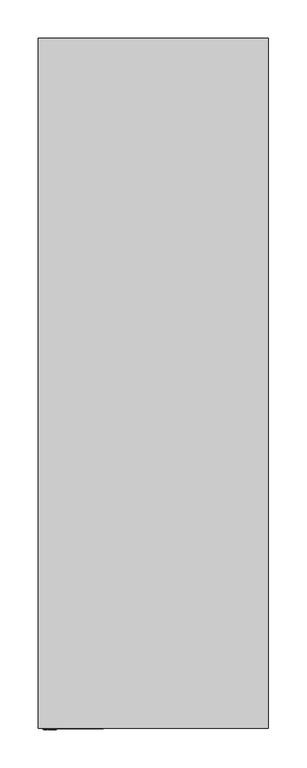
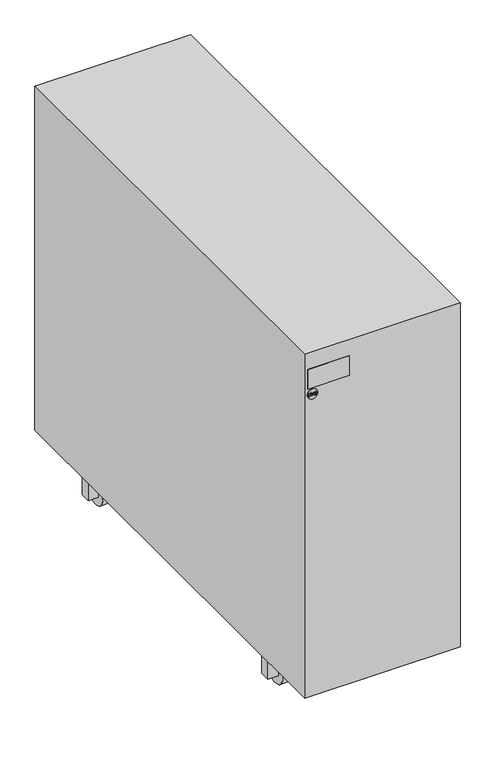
"""IFC4 building model written with IfcOpenShell, lengths in millimetres: proxy geometry, НВО_КНС_ИБПTrioTM_DKC : TRIOTM15A10."""

from ifc_helpers import new_model, si_unit, point, frame, frame_2d, origin, place, context, project, spatial, polyline, circle_curve, trimmed, segment, composite_curve, outline, extrude, source, transform, mapped, element, save


def electrical_equipment_c397dae7(model_context):
    return source(origin(), model_context, "Body", "SweptSolid", [
        extrude(outline(polyline([(50.3347717, -84.6652283), (35.0, -100.0), (20.0, -100.0), (20.0, -80.0), (70.0, -80.0), (70.0, -84.6652283), (50.3347717, -84.6652283)])), frame((0.0, 740.0, 0.0), z_axis=(0.0, 1.0, 0.0), x_axis=(0.0, 0.0, 1.0)), (0.0, 0.0, 1.0), 20.0),
        extrude(outline(polyline([(50.3347717, -135.3347717), (70.0, -135.3347717), (70.0, -140.0), (20.0, -140.0), (20.0, -120.0), (35.0, -120.0), (50.3347717, -135.3347717)])), frame((0.0, 740.0, 0.0), z_axis=(0.0, 1.0, 0.0), x_axis=(0.0, 0.0, 1.0)), (0.0, 0.0, 1.0), 20.0),
        extrude(outline(composite_curve([segment(trimmed(circle_curve(frame_2d((750.0, 25.0)), 25.0), [point((775.0, 25.0))], [point((725.0, 25.0))], False, "CARTESIAN"), True, "CONTINUOUS"), segment(trimmed(circle_curve(frame_2d((750.0, 25.0)), 25.0), [point((725.0, 25.0))], [point((775.0, 25.0))], False, "CARTESIAN"), True, "CONTINUOUS")], self_intersect=False)), frame((-120.0, 0.0, 0.0), z_axis=(1.0, 0.0, 0.0), x_axis=(0.0, 1.0, 0.0)), (0.0, 0.0, 1.0), 20.0),
        extrude(outline(polyline([(50.3347717, -84.6652283), (35.0, -100.0), (20.0, -100.0), (20.0, -80.0), (70.0, -80.0), (70.0, -84.6652283), (50.3347717, -84.6652283)])), frame((0.0, 140.0, 0.0), z_axis=(0.0, 1.0, 0.0), x_axis=(0.0, 0.0, 1.0)), (0.0, 0.0, 1.0), 20.0),
        extrude(outline(polyline([(50.3347717, -135.3347717), (70.0, -135.3347717), (70.0, -140.0), (20.0, -140.0), (20.0, -120.0), (35.0, -120.0), (50.3347717, -135.3347717)])), frame((0.0, 140.0, 0.0), z_axis=(0.0, 1.0, 0.0), x_axis=(0.0, 0.0, 1.0)), (0.0, 0.0, 1.0), 20.0),
        extrude(outline(composite_curve([segment(trimmed(circle_curve(frame_2d((150.0, 25.0)), 25.0), [point((175.0, 25.0))], [point((125.0, 25.0))], False, "CARTESIAN"), True, "CONTINUOUS"), segment(trimmed(circle_curve(frame_2d((150.0, 25.0)), 25.0), [point((125.0, 25.0))], [point((175.0, 25.0))], False, "CARTESIAN"), True, "CONTINUOUS")], self_intersect=False)), frame((-120.0, 0.0, 0.0), z_axis=(1.0, 0.0, 0.0), x_axis=(0.0, 1.0, 0.0)), (0.0, 0.0, 1.0), 20.0),
        extrude(outline(polyline([(50.3347717, 135.3347717), (35.0, 120.0), (20.0, 120.0), (20.0, 140.0), (70.0, 140.0), (70.0, 135.3347717), (50.3347717, 135.3347717)])), frame((0.0, 740.0, 0.0), z_axis=(0.0, 1.0, 0.0), x_axis=(0.0, 0.0, 1.0)), (0.0, 0.0, 1.0), 20.0),
        extrude(outline(polyline([(50.3347717, 84.6652283), (70.0, 84.6652283), (70.0, 80.0), (20.0, 80.0), (20.0, 100.0), (35.0, 100.0), (50.3347717, 84.6652283)])), frame((0.0, 740.0, 0.0), z_axis=(0.0, 1.0, 0.0), x_axis=(0.0, 0.0, 1.0)), (0.0, 0.0, 1.0), 20.0),
        extrude(outline(composite_curve([segment(trimmed(circle_curve(frame_2d((750.0, 25.0)), 25.0), [point((775.0, 25.0))], [point((725.0, 25.0))], False, "CARTESIAN"), True, "CONTINUOUS"), segment(trimmed(circle_curve(frame_2d((750.0, 25.0)), 25.0), [point((725.0, 25.0))], [point((775.0, 25.0))], False, "CARTESIAN"), True, "CONTINUOUS")], self_intersect=False)), frame((100.0, 0.0, 0.0), z_axis=(1.0, 0.0, 0.0), x_axis=(0.0, 1.0, 0.0)), (0.0, 0.0, 1.0), 20.0),
        extrude(outline(polyline([(50.3347717, 135.3347717), (35.0, 120.0), (20.0, 120.0), (20.0, 140.0), (70.0, 140.0), (70.0, 135.3347717), (50.3347717, 135.3347717)])), frame((0.0, 140.0, 0.0), z_axis=(0.0, 1.0, 0.0), x_axis=(0.0, 0.0, 1.0)), (0.0, 0.0, 1.0), 20.0),
        extrude(outline(polyline([(50.3347717, 84.6652283), (70.0, 84.6652283), (70.0, 80.0), (20.0, 80.0), (20.0, 100.0), (35.0, 100.0), (50.3347717, 84.6652283)])), frame((0.0, 140.0, 0.0), z_axis=(0.0, 1.0, 0.0), x_axis=(0.0, 0.0, 1.0)), (0.0, 0.0, 1.0), 20.0),
        extrude(outline(composite_curve([segment(trimmed(circle_curve(frame_2d((150.0, 25.0)), 25.0), [point((175.0, 25.0))], [point((125.0, 25.0))], False, "CARTESIAN"), True, "CONTINUOUS"), segment(trimmed(circle_curve(frame_2d((150.0, 25.0)), 25.0), [point((125.0, 25.0))], [point((175.0, 25.0))], False, "CARTESIAN"), True, "CONTINUOUS")], self_intersect=False)), frame((100.0, 0.0, 0.0), z_axis=(1.0, 0.0, 0.0), x_axis=(0.0, 1.0, 0.0)), (0.0, 0.0, 1.0), 20.0),
        extrude(outline(polyline([(682.0, -143.1463789), (682.0, -140.967046), (682.103007, -139.9980448), (682.9520786, -138.7273804), (683.829845, -138.3153525), (685.0460629, -138.154956), (686.4793312, -138.391872), (687.5094008, -139.1055631), (687.9405585, -139.9914229), (688.0273786, -141.0671099), (688.0273786, -143.1463789), (682.0, -143.1463789)]), holes=[polyline([(682.7534223, -142.3929566), (687.2739563, -142.3929566), (687.2739563, -141.0803536), (687.153291, -140.0120243), (686.4852173, -139.2299072), (685.0578351, -138.9083783), (683.9181367, -139.0724537), (682.8623154, -140.0900153), (682.7534223, -141.0597522), (682.7534223, -142.3929566)])]), frame((0.0, -2.0, 0.0), z_axis=(0.0, 1.0, 0.0), x_axis=(0.0, 0.0, 1.0)), (0.0, 0.0, 1.0), 6.0),
        extrude(outline(polyline([(682.0, -136.7422891), (684.0719114, -136.365578), (685.0401768, -135.3502237), (682.0, -133.0487539), (682.0, -132.1275774), (685.5493255, -134.816059), (688.0273786, -132.2217552), (688.0273786, -133.2753692), (685.076965, -136.365578), (688.0273786, -137.1190003), (682.0, -136.7422891)])), frame((0.0, -2.0, 0.0), z_axis=(0.0, 1.0, 0.0), x_axis=(0.0, 0.0, 1.0)), (0.0, 0.0, 1.0), 6.0),
        extrude(outline(polyline([(684.1425447, -127.3245101), (683.0330126, -127.963889), (682.6592445, -129.1168311), (682.9336845, -130.1564657), (683.7628905, -130.8642706), (685.0607782, -131.0916217), (686.180611, -130.8995873), (687.0458694, -130.2337209), (687.3681341, -129.055027), (687.0775073, -128.0367296), (686.3307068, -126.6652655), (687.652139, -127.5165445), (688.1215564, -129.0255964), (687.7588248, -130.4735799), (686.6971173, -131.4881985), (685.0593067, -131.845044), (683.4479835, -131.5294013), (682.3016632, -130.6096963), (681.9058222, -129.0417832), (682.4289504, -127.4643052), (684.1425447, -127.3245101)])), frame((0.0, -2.0, 0.0), z_axis=(0.0, 1.0, 0.0), x_axis=(0.0, 0.0, 1.0)), (0.0, 0.0, 1.0), 6.0),
        extrude(outline(composite_curve([segment(trimmed(circle_curve(frame_2d((685.0, -135.0)), 10.0), [point((685.0, -145.0))], [point((685.0, -125.0))], False, "CARTESIAN"), True, "CONTINUOUS"), segment(trimmed(circle_curve(frame_2d((685.0, -135.0)), 10.0), [point((685.0, -125.0))], [point((685.0, -145.0))], False, "CARTESIAN"), True, "CONTINUOUS")], self_intersect=False)), frame((0.0, -1.0, 0.0), z_axis=(0.0, 1.0, 0.0), x_axis=(0.0, 0.0, 1.0)), (0.0, 0.0, 1.0), 10.0),
        extrude(outline(polyline([(150.0, 0.0), (-150.0, 0.0), (-150.0, 900.0), (150.0, 900.0), (150.0, 0.0)])), frame((0.0, 0.0, 70.0), z_axis=(0.0, 0.0, 1.0), x_axis=(1.0, 0.0, 0.0)), (0.0, 0.0, 1.0), 700.0),
        extrude(outline(polyline([(-65.0, -1.0), (-145.0, -1.0), (-145.0, 0.0), (-65.0, 0.0), (-65.0, -1.0)])), frame((0.0, 0.0, 698.0), z_axis=(0.0, 0.0, 1.0), x_axis=(1.0, 0.0, 0.0)), (0.0, 0.0, 1.0), 40.0),
    ])


if __name__ == "__main__":
    model = new_model("IFC4")
    model_context = context("Model", 3, world=origin())
    ifc_project = project(units=[si_unit("LENGTHUNIT", "METRE", prefix="MILLI")], contexts=[model_context])
    site = spatial("IfcSite", under=ifc_project)
    building = spatial("IfcBuilding", under=site)
    placement = place(None, origin())
    electrical_equipment_shape = electrical_equipment_c397dae7(model_context)
    element("IfcBuildingElementProxy", 1, Name="НВО_КНС_ИБПTrioTM_DKC : TRIOTM15A10", ObjectType="НВО_КНС_ИБПTrioTM_DKC : TRIOTM15A10", at=placement, inside=building, context=model_context, shape_type="MappedRepresentation", body=[
        mapped(electrical_equipment_shape, transform((0.0, 0.0, 0.0), x_axis=(1.0, 0.0, 0.0), y_axis=(0.0, 1.0, 0.0), z_axis=(0.0, 0.0, 1.0))),
    ])
    save(model, "model.ifc")
